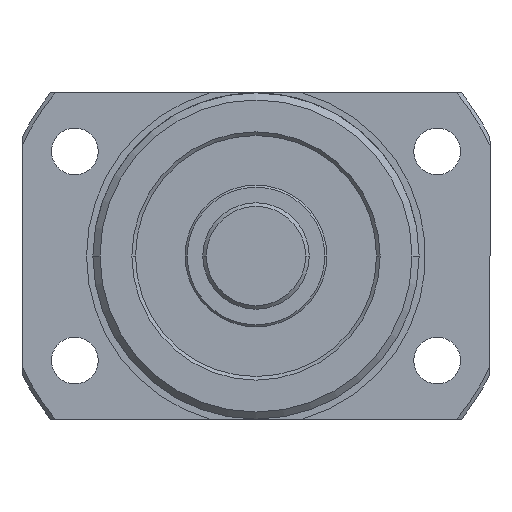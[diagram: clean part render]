
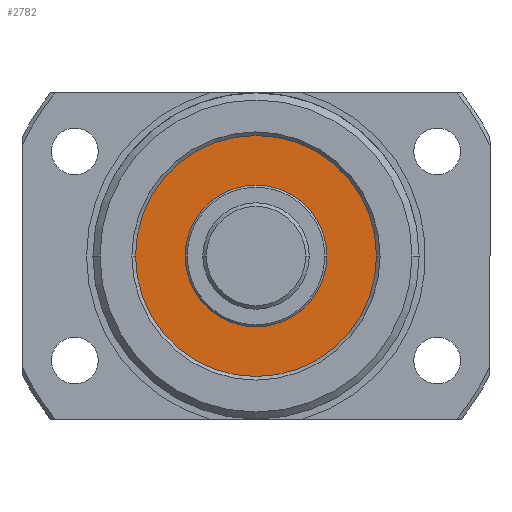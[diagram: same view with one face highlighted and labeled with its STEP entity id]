
A CAD part, left-side view. The second image highlights one B-rep face of the part: STEP entity #2782.
In plain terms, the highlighted planar face has unit normal (-1, 0, 0).
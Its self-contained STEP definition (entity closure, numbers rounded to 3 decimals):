
#726 = VERTEX_POINT ( 'NONE', #4394 ) ;
#742 = VERTEX_POINT ( 'NONE', #4378 ) ;
#803 = FACE_BOUND ( 'NONE', #3891, .T. ) ;
#805 = FACE_OUTER_BOUND ( 'NONE', #3886, .T. ) ;
#1276 = DIRECTION ( 'NONE',  ( -1., 0., 0. ) ) ;
#1281 = CARTESIAN_POINT ( 'NONE',  ( -53.5, 0., 0. ) ) ;
#1283 = PLANE ( 'NONE',  #1938 ) ;
#1285 = DIRECTION ( 'NONE',  ( 0., -1., 0. ) ) ;
#1533 = EDGE_CURVE ( 'NONE', #726, #742, #5158, .T. ) ;
#1615 = EDGE_CURVE ( 'NONE', #3514, #3529, #4477, .T. ) ;
#1659 = EDGE_CURVE ( 'NONE', #3529, #3514, #4538, .T. ) ;
#1693 = EDGE_CURVE ( 'NONE', #742, #726, #4570, .T. ) ;
#1727 = AXIS2_PLACEMENT_3D ( 'NONE', #3105, #3104, #3103 ) ;
#1817 = AXIS2_PLACEMENT_3D ( 'NONE', #6057, #6056, #6055 ) ;
#1834 = AXIS2_PLACEMENT_3D ( 'NONE', #5551, #5550, #5549 ) ;
#1855 = AXIS2_PLACEMENT_3D ( 'NONE', #2114, #2113, #2104 ) ;
#1938 = AXIS2_PLACEMENT_3D ( 'NONE', #1281, #1276, #1285 ) ;
#2104 = DIRECTION ( 'NONE',  ( 0., -1., 0. ) ) ;
#2113 = DIRECTION ( 'NONE',  ( -1., 0., 0. ) ) ;
#2114 = CARTESIAN_POINT ( 'NONE',  ( -53.5, 0., 0. ) ) ;
#2782 = ADVANCED_FACE ( 'NONE', ( #803, #805 ), #1283, .T. ) ;
#3103 = DIRECTION ( 'NONE',  ( 0., -1., 0. ) ) ;
#3104 = DIRECTION ( 'NONE',  ( -1., 0., 0. ) ) ;
#3105 = CARTESIAN_POINT ( 'NONE',  ( -53.5, 0., 0. ) ) ;
#3514 = VERTEX_POINT ( 'NONE', #5421 ) ;
#3529 = VERTEX_POINT ( 'NONE', #5436 ) ;
#3846 = ORIENTED_EDGE ( 'NONE', *, *, #1533, .F. ) ;
#3847 = ORIENTED_EDGE ( 'NONE', *, *, #1693, .F. ) ;
#3848 = ORIENTED_EDGE ( 'NONE', *, *, #1659, .T. ) ;
#3849 = ORIENTED_EDGE ( 'NONE', *, *, #1615, .T. ) ;
#3886 = EDGE_LOOP ( 'NONE', ( #3848, #3849 ) ) ;
#3891 = EDGE_LOOP ( 'NONE', ( #3846, #3847 ) ) ;
#4378 = CARTESIAN_POINT ( 'NONE',  ( -53.5, 0., 10. ) ) ;
#4394 = CARTESIAN_POINT ( 'NONE',  ( -53.5, 0., -10. ) ) ;
#4477 = CIRCLE ( 'NONE', #1817, 17. ) ;
#4538 = CIRCLE ( 'NONE', #1834, 17. ) ;
#4570 = CIRCLE ( 'NONE', #1855, 10. ) ;
#5158 = CIRCLE ( 'NONE', #1727, 10. ) ;
#5421 = CARTESIAN_POINT ( 'NONE',  ( -53.5, 17., 0. ) ) ;
#5436 = CARTESIAN_POINT ( 'NONE',  ( -53.5, -17., 0. ) ) ;
#5549 = DIRECTION ( 'NONE',  ( 0., -1., 0. ) ) ;
#5550 = DIRECTION ( 'NONE',  ( -1., 0., 0. ) ) ;
#5551 = CARTESIAN_POINT ( 'NONE',  ( -53.5, 0., 0. ) ) ;
#6055 = DIRECTION ( 'NONE',  ( 0., -1., 0. ) ) ;
#6056 = DIRECTION ( 'NONE',  ( -1., 0., 0. ) ) ;
#6057 = CARTESIAN_POINT ( 'NONE',  ( -53.5, 0., 0. ) ) ;
